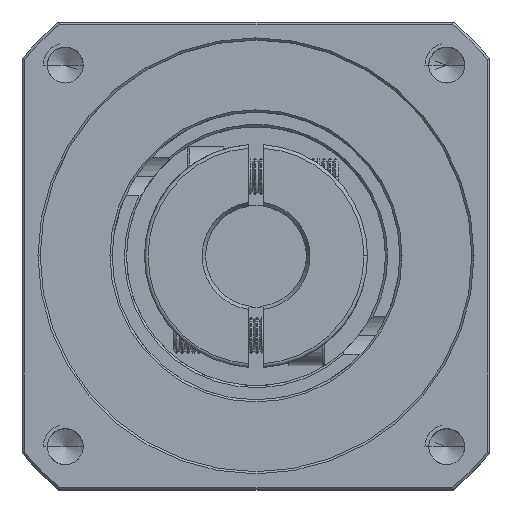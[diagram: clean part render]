
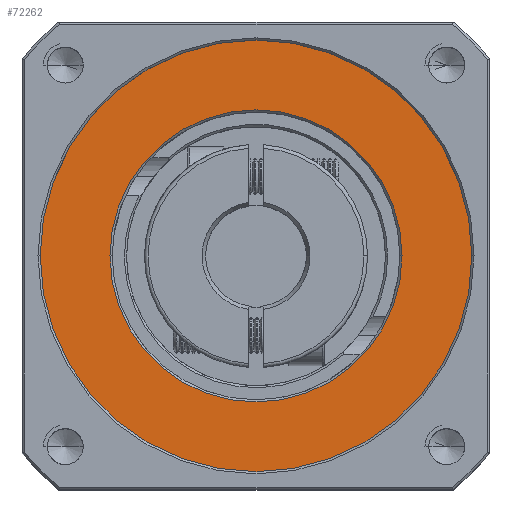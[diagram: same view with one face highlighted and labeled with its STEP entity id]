
A CAD part, top view. The second image highlights one B-rep face of the part: STEP entity #72262.
In plain terms, the highlighted planar face has unit normal (0, 0, 1).
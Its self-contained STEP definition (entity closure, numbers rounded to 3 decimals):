
#491 = DIRECTION ( 'NONE',  ( 0., 0., 1. ) ) ;
#1504 = VERTEX_POINT ( 'NONE', #9916 ) ;
#2114 = ORIENTED_EDGE ( 'NONE', *, *, #16177, .T. ) ;
#4715 = CARTESIAN_POINT ( 'NONE',  ( -85.77, 28.173, 12.447 ) ) ;
#5355 = DIRECTION ( 'NONE',  ( 1., 0., 0. ) ) ;
#9749 = EDGE_LOOP ( 'NONE', ( #20474, #2114 ) ) ;
#9916 = CARTESIAN_POINT ( 'NONE',  ( -95.47, 28.173, 12.447 ) ) ;
#10119 = AXIS2_PLACEMENT_3D ( 'NONE', #79727, #32575, #87621 ) ;
#10252 = CIRCLE ( 'NONE', #48743, 20.3 ) ;
#15553 = PLANE ( 'NONE',  #92029 ) ;
#16177 = EDGE_CURVE ( 'NONE', #1504, #86576, #68107, .T. ) ;
#18254 = EDGE_LOOP ( 'NONE', ( #44935, #44605 ) ) ;
#18811 = VERTEX_POINT ( 'NONE', #91366 ) ;
#20474 = ORIENTED_EDGE ( 'NONE', *, *, #65975, .T. ) ;
#22797 = EDGE_CURVE ( 'NONE', #18811, #60857, #10252, .T. ) ;
#25794 = FACE_OUTER_BOUND ( 'NONE', #9749, .T. ) ;
#32024 = CARTESIAN_POINT ( 'NONE',  ( -65.47, 28.173, 12.447 ) ) ;
#32575 = DIRECTION ( 'NONE',  ( 0., 0., -1. ) ) ;
#38204 = CARTESIAN_POINT ( 'NONE',  ( -35.47, 28.173, 12.447 ) ) ;
#39997 = DIRECTION ( 'NONE',  ( 1., 0., 0. ) ) ;
#44605 = ORIENTED_EDGE ( 'NONE', *, *, #97364, .T. ) ;
#44935 = ORIENTED_EDGE ( 'NONE', *, *, #22797, .T. ) ;
#47228 = CARTESIAN_POINT ( 'NONE',  ( -65.47, 28.173, 12.447 ) ) ;
#47748 = CARTESIAN_POINT ( 'NONE',  ( -65.47, 28.173, 12.447 ) ) ;
#48743 = AXIS2_PLACEMENT_3D ( 'NONE', #99472, #52579, #5355 ) ;
#52579 = DIRECTION ( 'NONE',  ( 0., 0., -1. ) ) ;
#55232 = DIRECTION ( 'NONE',  ( 1., 0., 0. ) ) ;
#55765 = DIRECTION ( 'NONE',  ( 1., 0., 0. ) ) ;
#60857 = VERTEX_POINT ( 'NONE', #4715 ) ;
#61199 = AXIS2_PLACEMENT_3D ( 'NONE', #32024, #87089, #39997 ) ;
#64238 = AXIS2_PLACEMENT_3D ( 'NONE', #47748, #491, #55765 ) ;
#65523 = CIRCLE ( 'NONE', #10119, 20.3 ) ;
#65975 = EDGE_CURVE ( 'NONE', #86576, #1504, #89839, .T. ) ;
#68107 = CIRCLE ( 'NONE', #64238, 30. ) ;
#72262 = ADVANCED_FACE ( 'NONE', ( #86118, #25794 ), #15553, .T. ) ;
#79727 = CARTESIAN_POINT ( 'NONE',  ( -65.47, 28.173, 12.447 ) ) ;
#86118 = FACE_BOUND ( 'NONE', #18254, .T. ) ;
#86576 = VERTEX_POINT ( 'NONE', #38204 ) ;
#87089 = DIRECTION ( 'NONE',  ( 0., 0., 1. ) ) ;
#87621 = DIRECTION ( 'NONE',  ( 1., 0., 0. ) ) ;
#89839 = CIRCLE ( 'NONE', #61199, 30. ) ;
#91366 = CARTESIAN_POINT ( 'NONE',  ( -45.17, 28.173, 12.447 ) ) ;
#92029 = AXIS2_PLACEMENT_3D ( 'NONE', #47228, #102046, #55232 ) ;
#97364 = EDGE_CURVE ( 'NONE', #60857, #18811, #65523, .T. ) ;
#99472 = CARTESIAN_POINT ( 'NONE',  ( -65.47, 28.173, 12.447 ) ) ;
#102046 = DIRECTION ( 'NONE',  ( 0., 0., 1. ) ) ;
